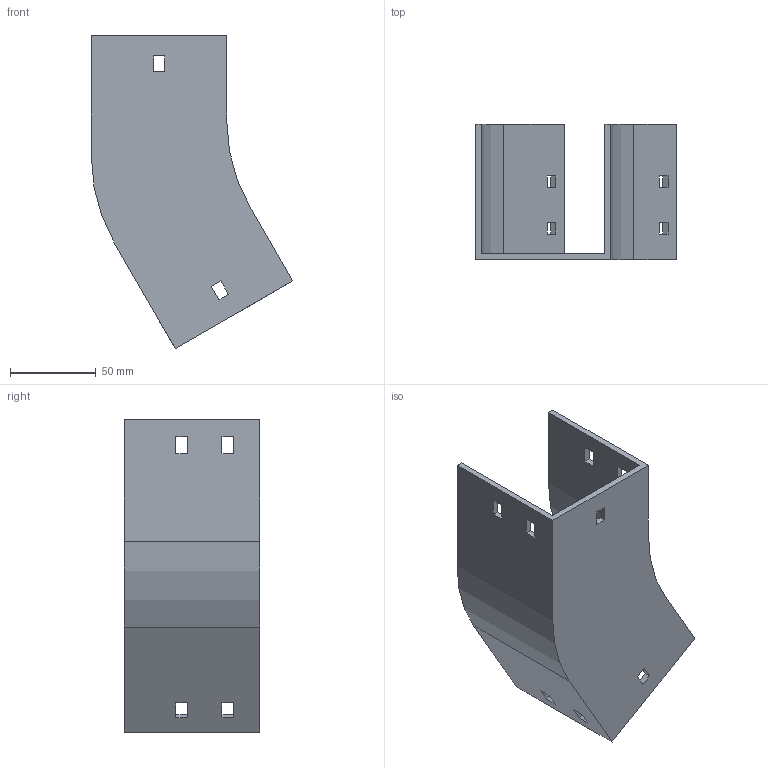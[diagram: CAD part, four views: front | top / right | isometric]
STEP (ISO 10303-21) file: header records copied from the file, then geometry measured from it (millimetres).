
FILE_DESCRIPTION (( 'STEP AP214' ), '1' );
FILE_NAME ('12B1C075.step', '2025-02-21T09:35:20', ( '' ), ( '' ), 'SwSTEP 2.0', 'SolidWorks 2023', '' );
FILE_SCHEMA (( 'AUTOMOTIVE_DESIGN' ));
Length unit declared in the file: millimetre
Products named in the file (1): 12B1C075
Bounding box: 117.4 x 79 x 182.8 mm (x, y, z)
Volume: 137660.5 mm3; surface area: 82656.8 mm2
Topology: 1 solids, 1 shells, 58 faces, 168 edges, 112 vertices
Faces by surface type: plane 54, cylinder 4
Entity records: 1943 total; most frequent: CARTESIAN_POINT 339, ORIENTED_EDGE 336, DIRECTION 294, EDGE_CURVE 168, LINE 160, VECTOR 160, VERTEX_POINT 112, EDGE_LOOP 78
